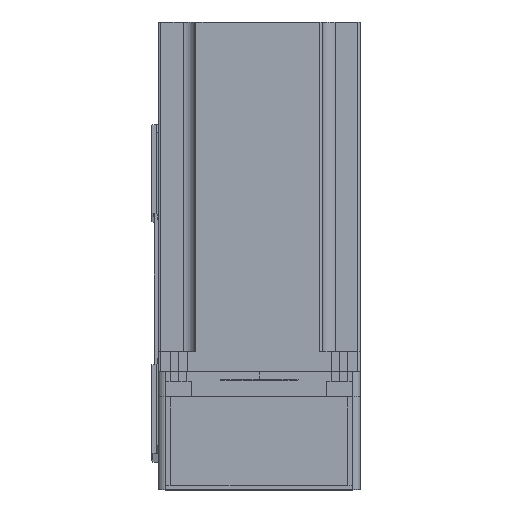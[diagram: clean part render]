
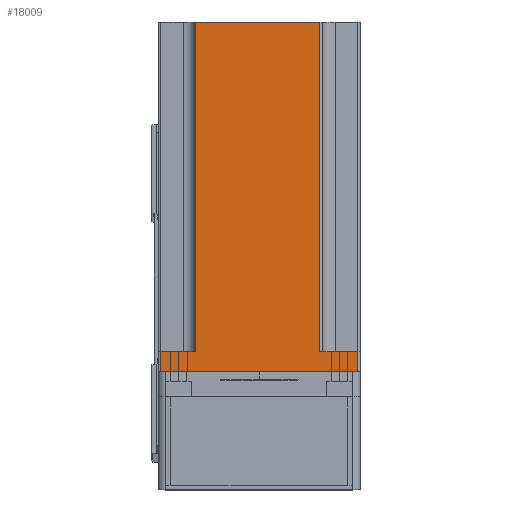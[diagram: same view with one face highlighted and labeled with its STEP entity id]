
A CAD part, top view. The second image highlights one B-rep face of the part: STEP entity #18009.
In plain terms, the highlighted planar face has unit normal (0, 0, 1) as drawn and (-1, 0, 0) by its records, which use the part's own axes.
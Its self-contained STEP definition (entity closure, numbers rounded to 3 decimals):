
#250 = LINE ( 'NONE', #35761, #25328 ) ;
#2747 = ORIENTED_EDGE ( 'NONE', *, *, #39650, .F. ) ;
#3429 = CARTESIAN_POINT ( 'NONE',  ( -40., -24., 8. ) ) ;
#4550 = EDGE_CURVE ( 'NONE', #19392, #42671, #33977, .T. ) ;
#6175 = FACE_OUTER_BOUND ( 'NONE', #36390, .T. ) ;
#6692 = VECTOR ( 'NONE', #50765, 1000. ) ;
#7016 = CARTESIAN_POINT ( 'NONE',  ( -40., 39., 138.3 ) ) ;
#7152 = DIRECTION ( 'NONE',  ( 0., 0., -1. ) ) ;
#7294 = LINE ( 'NONE', #59790, #30884 ) ;
#7731 = EDGE_CURVE ( 'NONE', #19392, #38597, #24091, .T. ) ;
#8515 = VECTOR ( 'NONE', #58061, 1000. ) ;
#9637 = ORIENTED_EDGE ( 'NONE', *, *, #10886, .T. ) ;
#10886 = EDGE_CURVE ( 'NONE', #29020, #20663, #7294, .T. ) ;
#10962 = CARTESIAN_POINT ( 'NONE',  ( -40., -40., 0. ) ) ;
#11082 = ORIENTED_EDGE ( 'NONE', *, *, #7731, .F. ) ;
#11367 = ORIENTED_EDGE ( 'NONE', *, *, #4550, .T. ) ;
#12043 = DIRECTION ( 'NONE',  ( 0., -1., 0. ) ) ;
#18009 = ADVANCED_FACE ( 'NONE', ( #6175 ), #54769, .F. ) ;
#18836 = ORIENTED_EDGE ( 'NONE', *, *, #48376, .T. ) ;
#19392 = VERTEX_POINT ( 'NONE', #51616 ) ;
#20407 = CARTESIAN_POINT ( 'NONE',  ( -40., 25., 138.3 ) ) ;
#20663 = VERTEX_POINT ( 'NONE', #46147 ) ;
#21048 = LINE ( 'NONE', #10962, #8515 ) ;
#21314 = VERTEX_POINT ( 'NONE', #28493 ) ;
#22387 = AXIS2_PLACEMENT_3D ( 'NONE', #51723, #50704, #50316 ) ;
#24091 = LINE ( 'NONE', #34449, #60129 ) ;
#25070 = CARTESIAN_POINT ( 'NONE',  ( -40., 39., 8. ) ) ;
#25286 = ORIENTED_EDGE ( 'NONE', *, *, #59363, .F. ) ;
#25328 = VECTOR ( 'NONE', #12043, 1000. ) ;
#26323 = EDGE_CURVE ( 'NONE', #42671, #21314, #34304, .T. ) ;
#28262 = VERTEX_POINT ( 'NONE', #3429 ) ;
#28493 = CARTESIAN_POINT ( 'NONE',  ( -40., 39., 0. ) ) ;
#29020 = VERTEX_POINT ( 'NONE', #36420 ) ;
#30884 = VECTOR ( 'NONE', #58608, 1000. ) ;
#31762 = LINE ( 'NONE', #55525, #6692 ) ;
#32488 = VECTOR ( 'NONE', #55301, 1000. ) ;
#33977 = LINE ( 'NONE', #56930, #32488 ) ;
#34182 = DIRECTION ( 'NONE',  ( 0., 0., 1. ) ) ;
#34304 = LINE ( 'NONE', #7016, #59254 ) ;
#34449 = CARTESIAN_POINT ( 'NONE',  ( -40., 25., 8. ) ) ;
#35761 = CARTESIAN_POINT ( 'NONE',  ( -40., -40., 138.3 ) ) ;
#36390 = EDGE_LOOP ( 'NONE', ( #2747, #39542, #25286, #11082, #11367, #41577, #18836, #9637 ) ) ;
#36420 = CARTESIAN_POINT ( 'NONE',  ( -40., -39., 0. ) ) ;
#37535 = LINE ( 'NONE', #49567, #49996 ) ;
#38597 = VERTEX_POINT ( 'NONE', #20407 ) ;
#39542 = ORIENTED_EDGE ( 'NONE', *, *, #50230, .T. ) ;
#39650 = EDGE_CURVE ( 'NONE', #28262, #20663, #37535, .T. ) ;
#41527 = VERTEX_POINT ( 'NONE', #60850 ) ;
#41577 = ORIENTED_EDGE ( 'NONE', *, *, #26323, .T. ) ;
#42671 = VERTEX_POINT ( 'NONE', #25070 ) ;
#46147 = CARTESIAN_POINT ( 'NONE',  ( -40., -39., 8. ) ) ;
#48376 = EDGE_CURVE ( 'NONE', #21314, #29020, #21048, .T. ) ;
#49567 = CARTESIAN_POINT ( 'NONE',  ( -40., -40., 8. ) ) ;
#49996 = VECTOR ( 'NONE', #50164, 1000. ) ;
#50164 = DIRECTION ( 'NONE',  ( 0., -1., 0. ) ) ;
#50230 = EDGE_CURVE ( 'NONE', #28262, #41527, #31762, .T. ) ;
#50316 = DIRECTION ( 'NONE',  ( 0., 0., -1. ) ) ;
#50704 = DIRECTION ( 'NONE',  ( 1., 0., 0. ) ) ;
#50765 = DIRECTION ( 'NONE',  ( 0., 0., 1. ) ) ;
#51616 = CARTESIAN_POINT ( 'NONE',  ( -40., 25., 8. ) ) ;
#51723 = CARTESIAN_POINT ( 'NONE',  ( -40., -40., 138.3 ) ) ;
#54769 = PLANE ( 'NONE',  #22387 ) ;
#55301 = DIRECTION ( 'NONE',  ( 0., 1., 0. ) ) ;
#55525 = CARTESIAN_POINT ( 'NONE',  ( -40., -24., 138.3 ) ) ;
#56930 = CARTESIAN_POINT ( 'NONE',  ( -40., 40., 8. ) ) ;
#58061 = DIRECTION ( 'NONE',  ( 0., -1., 0. ) ) ;
#58608 = DIRECTION ( 'NONE',  ( 0., 0., 1. ) ) ;
#59254 = VECTOR ( 'NONE', #7152, 1000. ) ;
#59363 = EDGE_CURVE ( 'NONE', #38597, #41527, #250, .T. ) ;
#59790 = CARTESIAN_POINT ( 'NONE',  ( -40., -39., 138.3 ) ) ;
#60129 = VECTOR ( 'NONE', #34182, 1000. ) ;
#60850 = CARTESIAN_POINT ( 'NONE',  ( -40., -24., 138.3 ) ) ;
